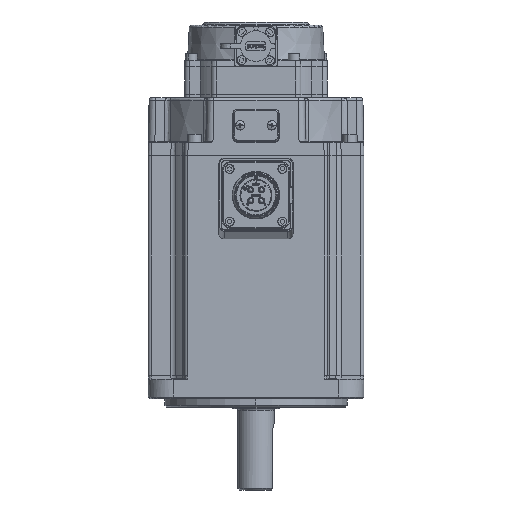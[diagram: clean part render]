
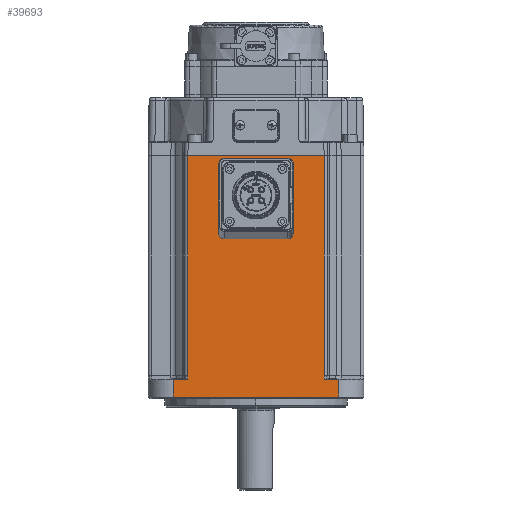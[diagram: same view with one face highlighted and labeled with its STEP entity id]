
A CAD part, left-side view. The second image highlights one B-rep face of the part: STEP entity #39693.
In plain terms, the highlighted planar face has unit normal (-1, 0, 0).
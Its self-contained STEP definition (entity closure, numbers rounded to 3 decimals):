
#4073 = VERTEX_POINT ( 'NONE', #93878 ) ;
#4332 = CARTESIAN_POINT ( 'NONE',  ( -65., -50., 64.75 ) ) ;
#5449 = LINE ( 'NONE', #73359, #40770 ) ;
#5880 = VECTOR ( 'NONE', #27237, 1000. ) ;
#6134 = DIRECTION ( 'NONE',  ( 0., 0., 1. ) ) ;
#6383 = VECTOR ( 'NONE', #107045, 1000. ) ;
#6589 = CARTESIAN_POINT ( 'NONE',  ( -65., 41.035, -67.75 ) ) ;
#7208 = CARTESIAN_POINT ( 'NONE',  ( -65., 50., 64.75 ) ) ;
#8985 = ORIENTED_EDGE ( 'NONE', *, *, #74758, .T. ) ;
#9564 = CARTESIAN_POINT ( 'NONE',  ( -65., -41.035, -70.096 ) ) ;
#9607 = DIRECTION ( 'NONE',  ( 0., -1., -0.018 ) ) ;
#10372 = VERTEX_POINT ( 'NONE', #94510 ) ;
#10740 = LINE ( 'NONE', #96449, #23685 ) ;
#18543 = PLANE ( 'NONE',  #21967 ) ;
#19626 = DIRECTION ( 'NONE',  ( 1., 0., 0. ) ) ;
#19912 = VERTEX_POINT ( 'NONE', #102643 ) ;
#20175 = DIRECTION ( 'NONE',  ( 0., 1., 0. ) ) ;
#21967 = AXIS2_PLACEMENT_3D ( 'NONE', #80279, #19626, #20175 ) ;
#23685 = VECTOR ( 'NONE', #44713, 1000. ) ;
#24518 = DIRECTION ( 'NONE',  ( 0., -1., 0. ) ) ;
#24801 = VERTEX_POINT ( 'NONE', #51019 ) ;
#27007 = CARTESIAN_POINT ( 'NONE',  ( -65., 41.035, 64.75 ) ) ;
#27237 = DIRECTION ( 'NONE',  ( 0., 0., 1. ) ) ;
#27888 = ORIENTED_EDGE ( 'NONE', *, *, #50001, .F. ) ;
#31083 = DIRECTION ( 'NONE',  ( 0., 0., 1. ) ) ;
#32078 = ORIENTED_EDGE ( 'NONE', *, *, #81509, .F. ) ;
#36137 = LINE ( 'NONE', #4332, #5880 ) ;
#36656 = VECTOR ( 'NONE', #51491, 1000. ) ;
#37433 = FACE_OUTER_BOUND ( 'NONE', #104024, .T. ) ;
#39693 = ADVANCED_FACE ( 'NONE', ( #37433 ), #18543, .F. ) ;
#40645 = DIRECTION ( 'NONE',  ( 0., 0., -1. ) ) ;
#40770 = VECTOR ( 'NONE', #31083, 1000. ) ;
#42536 = CARTESIAN_POINT ( 'NONE',  ( -65., -50., -80.75 ) ) ;
#44713 = DIRECTION ( 'NONE',  ( 0., -1., 0.017 ) ) ;
#46516 = CARTESIAN_POINT ( 'NONE',  ( -65., 50., -70.247 ) ) ;
#50001 = EDGE_CURVE ( 'NONE', #64649, #4073, #10740, .T. ) ;
#50314 = EDGE_CURVE ( 'NONE', #82350, #19912, #36137, .T. ) ;
#50434 = VECTOR ( 'NONE', #90604, 1000. ) ;
#51019 = CARTESIAN_POINT ( 'NONE',  ( -65., -41.035, 64.75 ) ) ;
#51339 = VERTEX_POINT ( 'NONE', #9564 ) ;
#51491 = DIRECTION ( 'NONE',  ( 0., 0., -1. ) ) ;
#52308 = ORIENTED_EDGE ( 'NONE', *, *, #104765, .T. ) ;
#52496 = ORIENTED_EDGE ( 'NONE', *, *, #109559, .T. ) ;
#54031 = LINE ( 'NONE', #7208, #68511 ) ;
#58306 = LINE ( 'NONE', #92806, #50434 ) ;
#60814 = LINE ( 'NONE', #69138, #86460 ) ;
#63618 = LINE ( 'NONE', #79815, #6383 ) ;
#63954 = EDGE_CURVE ( 'NONE', #64649, #68261, #54031, .T. ) ;
#64649 = VERTEX_POINT ( 'NONE', #46516 ) ;
#68261 = VERTEX_POINT ( 'NONE', #98798 ) ;
#68511 = VECTOR ( 'NONE', #40645, 1000. ) ;
#69138 = CARTESIAN_POINT ( 'NONE',  ( -65., -40.607, -70.089 ) ) ;
#69498 = ORIENTED_EDGE ( 'NONE', *, *, #81276, .T. ) ;
#73359 = CARTESIAN_POINT ( 'NONE',  ( -65., -41.035, 64.75 ) ) ;
#74602 = CARTESIAN_POINT ( 'NONE',  ( -65., -50., -80.75 ) ) ;
#74758 = EDGE_CURVE ( 'NONE', #51339, #89600, #5449, .T. ) ;
#75415 = EDGE_CURVE ( 'NONE', #68261, #82350, #90741, .T. ) ;
#79815 = CARTESIAN_POINT ( 'NONE',  ( -65., 41.035, -67.75 ) ) ;
#80279 = CARTESIAN_POINT ( 'NONE',  ( -65., -43., 64.75 ) ) ;
#81276 = EDGE_CURVE ( 'NONE', #10372, #81658, #86000, .T. ) ;
#81509 = EDGE_CURVE ( 'NONE', #51339, #19912, #60814, .T. ) ;
#81658 = VERTEX_POINT ( 'NONE', #6589 ) ;
#82350 = VERTEX_POINT ( 'NONE', #42536 ) ;
#83492 = VECTOR ( 'NONE', #24518, 1000. ) ;
#86000 = LINE ( 'NONE', #27007, #36656 ) ;
#86460 = VECTOR ( 'NONE', #9607, 1000. ) ;
#87448 = CARTESIAN_POINT ( 'NONE',  ( -65., -41.035, -67.75 ) ) ;
#89600 = VERTEX_POINT ( 'NONE', #87448 ) ;
#89624 = CARTESIAN_POINT ( 'NONE',  ( -65., -41.035, 64.75 ) ) ;
#89646 = VECTOR ( 'NONE', #6134, 1000. ) ;
#89908 = ORIENTED_EDGE ( 'NONE', *, *, #63954, .T. ) ;
#90604 = DIRECTION ( 'NONE',  ( 0., -1., 0. ) ) ;
#90741 = LINE ( 'NONE', #74602, #83492 ) ;
#92806 = CARTESIAN_POINT ( 'NONE',  ( -65., -43., 64.75 ) ) ;
#93878 = CARTESIAN_POINT ( 'NONE',  ( -65., 41.035, -70.094 ) ) ;
#94299 = ORIENTED_EDGE ( 'NONE', *, *, #50314, .T. ) ;
#94510 = CARTESIAN_POINT ( 'NONE',  ( -65., 41.035, 64.75 ) ) ;
#96449 = CARTESIAN_POINT ( 'NONE',  ( -65., -45.287, -68.613 ) ) ;
#98798 = CARTESIAN_POINT ( 'NONE',  ( -65., 50., -80.75 ) ) ;
#102528 = ORIENTED_EDGE ( 'NONE', *, *, #75415, .T. ) ;
#102643 = CARTESIAN_POINT ( 'NONE',  ( -65., -50., -70.256 ) ) ;
#103249 = EDGE_CURVE ( 'NONE', #10372, #24801, #58306, .T. ) ;
#104024 = EDGE_LOOP ( 'NONE', ( #69498, #52496, #27888, #89908, #102528, #94299, #32078, #8985, #52308, #107686 ) ) ;
#104765 = EDGE_CURVE ( 'NONE', #89600, #24801, #105786, .T. ) ;
#105786 = LINE ( 'NONE', #89624, #89646 ) ;
#107045 = DIRECTION ( 'NONE',  ( 0., 0., -1. ) ) ;
#107686 = ORIENTED_EDGE ( 'NONE', *, *, #103249, .F. ) ;
#109559 = EDGE_CURVE ( 'NONE', #81658, #4073, #63618, .T. ) ;
